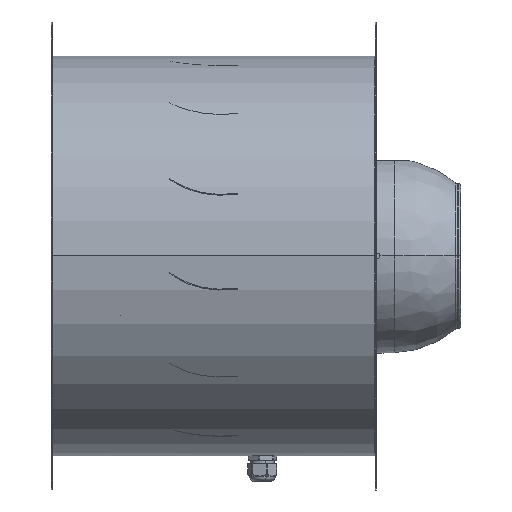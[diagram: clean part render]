
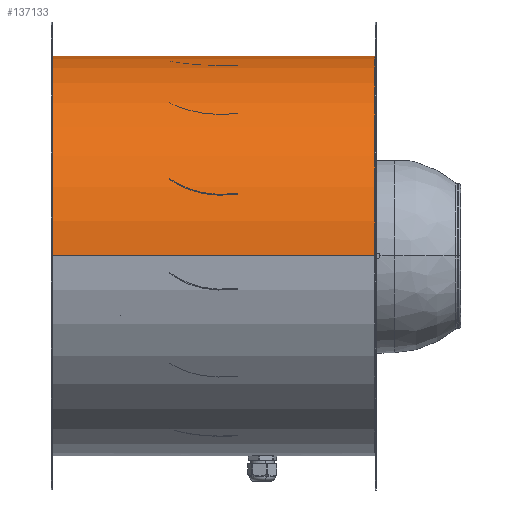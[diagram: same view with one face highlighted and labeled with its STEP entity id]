
A CAD part, top view. The second image highlights one B-rep face of the part: STEP entity #137133.
In plain terms, the highlighted cylindrical face has radius 226.25 mm (diameter 452.5 mm), a partial arc.
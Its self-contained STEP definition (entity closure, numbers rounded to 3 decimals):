
#6906 = VECTOR ( 'NONE', #277208, 1000. ) ;
#13901 = ORIENTED_EDGE ( 'NONE', *, *, #213744, .T. ) ;
#21914 = AXIS2_PLACEMENT_3D ( 'NONE', #143868, #367953, #176017 ) ;
#23857 = VECTOR ( 'NONE', #347257, 1000. ) ;
#28889 = CIRCLE ( 'NONE', #234624, 226.25 ) ;
#33205 = CARTESIAN_POINT ( 'NONE',  ( -113.07, 0., -226.25 ) ) ;
#33477 = VECTOR ( 'NONE', #323060, 1000. ) ;
#33917 = DIRECTION ( 'NONE',  ( 1., 0., 0. ) ) ;
#34205 = AXIS2_PLACEMENT_3D ( 'NONE', #341457, #149646, #373702 ) ;
#48224 = CIRCLE ( 'NONE', #34205, 226.25 ) ;
#54894 = EDGE_CURVE ( 'NONE', #190168, #277416, #98456, .T. ) ;
#60667 = VERTEX_POINT ( 'NONE', #206309 ) ;
#66528 = CARTESIAN_POINT ( 'NONE',  ( -113.07, 0., 0. ) ) ;
#66617 = VERTEX_POINT ( 'NONE', #393979 ) ;
#66735 = AXIS2_PLACEMENT_3D ( 'NONE', #135675, #359722, #167834 ) ;
#66779 = ORIENTED_EDGE ( 'NONE', *, *, #82503, .F. ) ;
#66905 = EDGE_LOOP ( 'NONE', ( #66779, #268774, #150356, #125077, #308849, #13901, #123863, #262512, #99196, #395963 ) ) ;
#72176 = CARTESIAN_POINT ( 'NONE',  ( -113.07, 0., 0. ) ) ;
#82503 = EDGE_CURVE ( 'NONE', #161753, #374398, #410909, .T. ) ;
#85375 = CARTESIAN_POINT ( 'NONE',  ( -113.07, 0., 226.25 ) ) ;
#85770 = EDGE_CURVE ( 'NONE', #137843, #237942, #28889, .T. ) ;
#92933 = DIRECTION ( 'NONE',  ( 1., 0., 0. ) ) ;
#98456 = CIRCLE ( 'NONE', #394204, 226.25 ) ;
#98741 = DIRECTION ( 'NONE',  ( 0., 0., 1. ) ) ;
#99196 = ORIENTED_EDGE ( 'NONE', *, *, #85770, .F. ) ;
#119204 = EDGE_CURVE ( 'NONE', #66617, #60667, #256582, .T. ) ;
#119475 = CARTESIAN_POINT ( 'NONE',  ( 249.93, 0., -226.25 ) ) ;
#123228 = CARTESIAN_POINT ( 'NONE',  ( -113.07, 3.017, -226.23 ) ) ;
#123863 = ORIENTED_EDGE ( 'NONE', *, *, #54894, .T. ) ;
#125077 = ORIENTED_EDGE ( 'NONE', *, *, #119204, .F. ) ;
#135675 = CARTESIAN_POINT ( 'NONE',  ( 249.93, 0., 0. ) ) ;
#137133 = ADVANCED_FACE ( 'NONE', ( #202196 ), #362566, .T. ) ;
#137843 = VERTEX_POINT ( 'NONE', #182538 ) ;
#143868 = CARTESIAN_POINT ( 'NONE',  ( 250.555, 0., 0. ) ) ;
#149646 = DIRECTION ( 'NONE',  ( 1., 0., 0. ) ) ;
#150356 = ORIENTED_EDGE ( 'NONE', *, *, #353794, .T. ) ;
#161753 = VERTEX_POINT ( 'NONE', #180344 ) ;
#167242 = LINE ( 'NONE', #85375, #6906 ) ;
#167834 = DIRECTION ( 'NONE',  ( 0., 0., 1. ) ) ;
#175313 = VECTOR ( 'NONE', #33917, 1000. ) ;
#175460 = CIRCLE ( 'NONE', #66735, 226.25 ) ;
#176017 = DIRECTION ( 'NONE',  ( 0., 0., 1. ) ) ;
#176459 = DIRECTION ( 'NONE',  ( 1., 0., 0. ) ) ;
#180344 = CARTESIAN_POINT ( 'NONE',  ( -113.695, 0., -226.25 ) ) ;
#182538 = CARTESIAN_POINT ( 'NONE',  ( -113.07, 3., -226.23 ) ) ;
#183755 = VERTEX_POINT ( 'NONE', #119475 ) ;
#190168 = VERTEX_POINT ( 'NONE', #255648 ) ;
#193558 = CARTESIAN_POINT ( 'NONE',  ( -113.07, 0., -226.25 ) ) ;
#202196 = FACE_OUTER_BOUND ( 'NONE', #66905, .T. ) ;
#205637 = AXIS2_PLACEMENT_3D ( 'NONE', #284780, #92933, #316975 ) ;
#206309 = CARTESIAN_POINT ( 'NONE',  ( 250.555, 0., 226.25 ) ) ;
#206903 = EDGE_CURVE ( 'NONE', #161753, #304037, #48224, .T. ) ;
#210095 = CARTESIAN_POINT ( 'NONE',  ( -113.07, 0., -226.25 ) ) ;
#213744 = EDGE_CURVE ( 'NONE', #183755, #190168, #175460, .T. ) ;
#234624 = AXIS2_PLACEMENT_3D ( 'NONE', #66528, #290573, #98741 ) ;
#237942 = VERTEX_POINT ( 'NONE', #299608 ) ;
#247116 = CARTESIAN_POINT ( 'NONE',  ( 249.93, 3.017, -226.23 ) ) ;
#255648 = CARTESIAN_POINT ( 'NONE',  ( 249.93, 3., -226.23 ) ) ;
#256582 = CIRCLE ( 'NONE', #21914, 226.25 ) ;
#258943 = LINE ( 'NONE', #33205, #33477 ) ;
#262512 = ORIENTED_EDGE ( 'NONE', *, *, #367663, .F. ) ;
#264011 = DIRECTION ( 'NONE',  ( 0., 0., 1. ) ) ;
#268774 = ORIENTED_EDGE ( 'NONE', *, *, #206903, .T. ) ;
#269332 = LINE ( 'NONE', #123228, #23857 ) ;
#277208 = DIRECTION ( 'NONE',  ( 1., 0., 0. ) ) ;
#277416 = VERTEX_POINT ( 'NONE', #247116 ) ;
#284780 = CARTESIAN_POINT ( 'NONE',  ( -113.07, 0., 0. ) ) ;
#290573 = DIRECTION ( 'NONE',  ( 1., 0., 0. ) ) ;
#296229 = DIRECTION ( 'NONE',  ( 1., 0., 0. ) ) ;
#299608 = CARTESIAN_POINT ( 'NONE',  ( -113.07, 3.017, -226.23 ) ) ;
#304037 = VERTEX_POINT ( 'NONE', #388266 ) ;
#308849 = ORIENTED_EDGE ( 'NONE', *, *, #411915, .F. ) ;
#316975 = DIRECTION ( 'NONE',  ( 0., 0., 1. ) ) ;
#320606 = CIRCLE ( 'NONE', #205637, 226.25 ) ;
#323060 = DIRECTION ( 'NONE',  ( 1., 0., 0. ) ) ;
#341457 = CARTESIAN_POINT ( 'NONE',  ( -113.695, 0., 0. ) ) ;
#347257 = DIRECTION ( 'NONE',  ( 1., 0., 0. ) ) ;
#353794 = EDGE_CURVE ( 'NONE', #304037, #60667, #167242, .T. ) ;
#359722 = DIRECTION ( 'NONE',  ( 1., 0., 0. ) ) ;
#362566 = CYLINDRICAL_SURFACE ( 'NONE', #371526, 226.25 ) ;
#367663 = EDGE_CURVE ( 'NONE', #237942, #277416, #269332, .T. ) ;
#367953 = DIRECTION ( 'NONE',  ( 1., 0., 0. ) ) ;
#368381 = CARTESIAN_POINT ( 'NONE',  ( 249.93, 0., 0. ) ) ;
#371526 = AXIS2_PLACEMENT_3D ( 'NONE', #72176, #296229, #264011 ) ;
#373702 = DIRECTION ( 'NONE',  ( 0., 0., 1. ) ) ;
#374398 = VERTEX_POINT ( 'NONE', #210095 ) ;
#388266 = CARTESIAN_POINT ( 'NONE',  ( -113.695, 0., 226.25 ) ) ;
#393979 = CARTESIAN_POINT ( 'NONE',  ( 250.555, 0., -226.25 ) ) ;
#394204 = AXIS2_PLACEMENT_3D ( 'NONE', #368381, #176459, #400564 ) ;
#395963 = ORIENTED_EDGE ( 'NONE', *, *, #397842, .F. ) ;
#397842 = EDGE_CURVE ( 'NONE', #374398, #137843, #320606, .T. ) ;
#400564 = DIRECTION ( 'NONE',  ( 0., 0., 1. ) ) ;
#410909 = LINE ( 'NONE', #193558, #175313 ) ;
#411915 = EDGE_CURVE ( 'NONE', #183755, #66617, #258943, .T. ) ;
